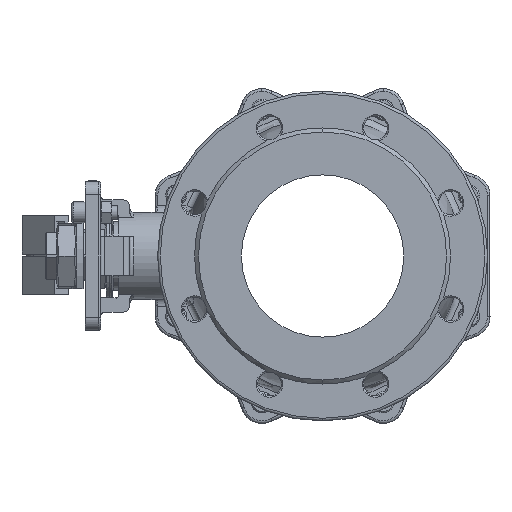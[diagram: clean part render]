
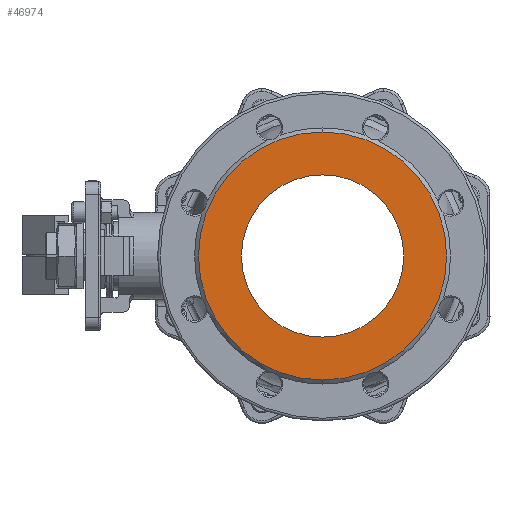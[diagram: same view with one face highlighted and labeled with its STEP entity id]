
A CAD part, left-side view. The second image highlights one B-rep face of the part: STEP entity #46974.
In plain terms, the highlighted planar face has unit normal (-1, 0, 0).
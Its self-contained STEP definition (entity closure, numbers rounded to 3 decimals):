
#2447 = CARTESIAN_POINT ( 'NONE',  ( -147., 0., 0. ) ) ;
#6773 = ORIENTED_EDGE ( 'NONE', *, *, #49450, .F. ) ;
#9363 = FACE_BOUND ( 'NONE', #38761, .T. ) ;
#9958 = DIRECTION ( 'NONE',  ( 1., 0., 0. ) ) ;
#15485 = EDGE_CURVE ( 'NONE', #21332, #40507, #24014, .T. ) ;
#15539 = ORIENTED_EDGE ( 'NONE', *, *, #32673, .F. ) ;
#16560 = AXIS2_PLACEMENT_3D ( 'NONE', #17496, #17826, #40970 ) ;
#17496 = CARTESIAN_POINT ( 'NONE',  ( -147., 0., 0. ) ) ;
#17826 = DIRECTION ( 'NONE',  ( 1., 0., 0. ) ) ;
#18998 = CARTESIAN_POINT ( 'NONE',  ( -147., 0., 61.5 ) ) ;
#21145 = CIRCLE ( 'NONE', #16560, 94. ) ;
#21332 = VERTEX_POINT ( 'NONE', #24383 ) ;
#21842 = ORIENTED_EDGE ( 'NONE', *, *, #36156, .F. ) ;
#22220 = CARTESIAN_POINT ( 'NONE',  ( -147., 0., 0. ) ) ;
#24014 = CIRCLE ( 'NONE', #47471, 94. ) ;
#24383 = CARTESIAN_POINT ( 'NONE',  ( -147., 0., -94. ) ) ;
#25189 = DIRECTION ( 'NONE',  ( 0., 0., 1. ) ) ;
#26775 = VERTEX_POINT ( 'NONE', #40280 ) ;
#27804 = DIRECTION ( 'NONE',  ( -1., 0., 0. ) ) ;
#29042 = PLANE ( 'NONE',  #36856 ) ;
#29055 = DIRECTION ( 'NONE',  ( 0., 0., 1. ) ) ;
#29215 = DIRECTION ( 'NONE',  ( 0., 0., 1. ) ) ;
#30549 = CIRCLE ( 'NONE', #33742, 61.5 ) ;
#31150 = CARTESIAN_POINT ( 'NONE',  ( -147., 0., 0. ) ) ;
#31577 = AXIS2_PLACEMENT_3D ( 'NONE', #31150, #27804, #35154 ) ;
#32673 = EDGE_CURVE ( 'NONE', #33802, #26775, #39067, .T. ) ;
#33587 = ORIENTED_EDGE ( 'NONE', *, *, #15485, .F. ) ;
#33742 = AXIS2_PLACEMENT_3D ( 'NONE', #22220, #44452, #29215 ) ;
#33802 = VERTEX_POINT ( 'NONE', #18998 ) ;
#34695 = CARTESIAN_POINT ( 'NONE',  ( -147., 0., 94. ) ) ;
#35154 = DIRECTION ( 'NONE',  ( 0., 0., 1. ) ) ;
#36156 = EDGE_CURVE ( 'NONE', #26775, #33802, #30549, .T. ) ;
#36856 = AXIS2_PLACEMENT_3D ( 'NONE', #2447, #40405, #25189 ) ;
#38761 = EDGE_LOOP ( 'NONE', ( #15539, #21842 ) ) ;
#39067 = CIRCLE ( 'NONE', #31577, 61.5 ) ;
#40250 = CARTESIAN_POINT ( 'NONE',  ( -147., 0., 0. ) ) ;
#40280 = CARTESIAN_POINT ( 'NONE',  ( -147., 0., -61.5 ) ) ;
#40405 = DIRECTION ( 'NONE',  ( -1., 0., 0. ) ) ;
#40507 = VERTEX_POINT ( 'NONE', #34695 ) ;
#40970 = DIRECTION ( 'NONE',  ( 0., 0., 1. ) ) ;
#43929 = FACE_OUTER_BOUND ( 'NONE', #44056, .T. ) ;
#44056 = EDGE_LOOP ( 'NONE', ( #33587, #6773 ) ) ;
#44452 = DIRECTION ( 'NONE',  ( -1., 0., 0. ) ) ;
#46974 = ADVANCED_FACE ( 'NONE', ( #43929, #9363 ), #29042, .T. ) ;
#47471 = AXIS2_PLACEMENT_3D ( 'NONE', #40250, #9958, #29055 ) ;
#49450 = EDGE_CURVE ( 'NONE', #40507, #21332, #21145, .T. ) ;
